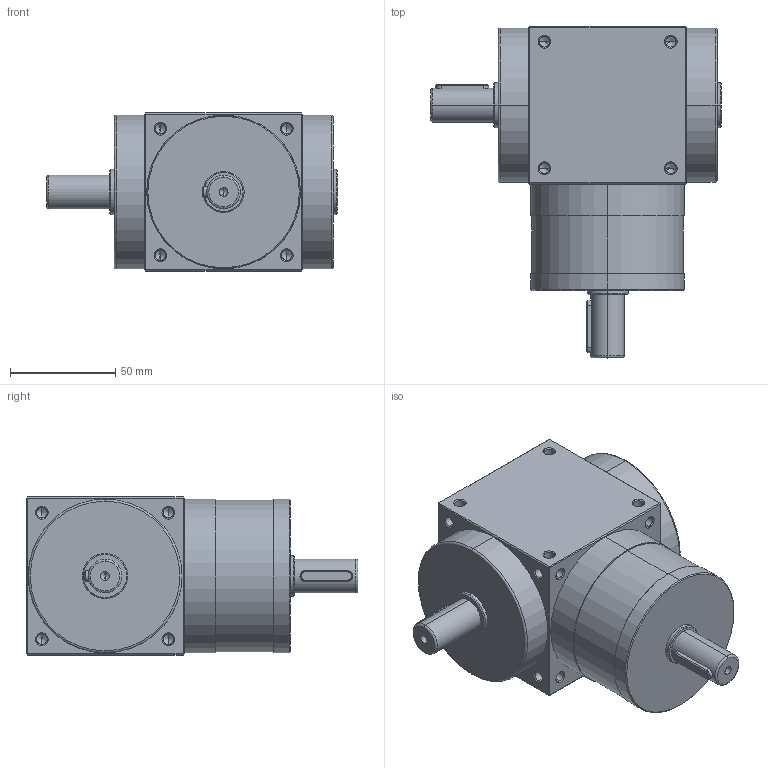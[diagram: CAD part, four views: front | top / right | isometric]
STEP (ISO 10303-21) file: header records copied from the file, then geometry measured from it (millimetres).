
FILE_DESCRIPTION (( 'STEP AP214' ), '1' );
FILE_NAME ('AT075-L1-001.STEP', '2019-12-12T01:11:34', ( 'User' ), ( 'Far123' ), 'SwSTEP 2.0', 'SolidWorks 2015', '' );
FILE_SCHEMA (( 'AUTOMOTIVE_DESIGN' ));
Length unit declared in the file: millimetre
Products named in the file (1): AT075-L1-001
Bounding box: 138 x 157.5 x 75 mm (x, y, z)
Volume: 759419.1 mm3; surface area: 59364.3 mm2
Topology: 1 solids, 1 shells, 290 faces, 744 edges, 410 vertices
Faces by surface type: cylinder 124, cone 112, plane 46, torus 8
Entity records: 9454 total; most frequent: CARTESIAN_POINT 1997, ORIENTED_EDGE 1384, DIRECTION 1334, EDGE_CURVE 692, AXIS2_PLACEMENT_3D 515, VERTEX_POINT 410, EDGE_LOOP 328, LINE 304
